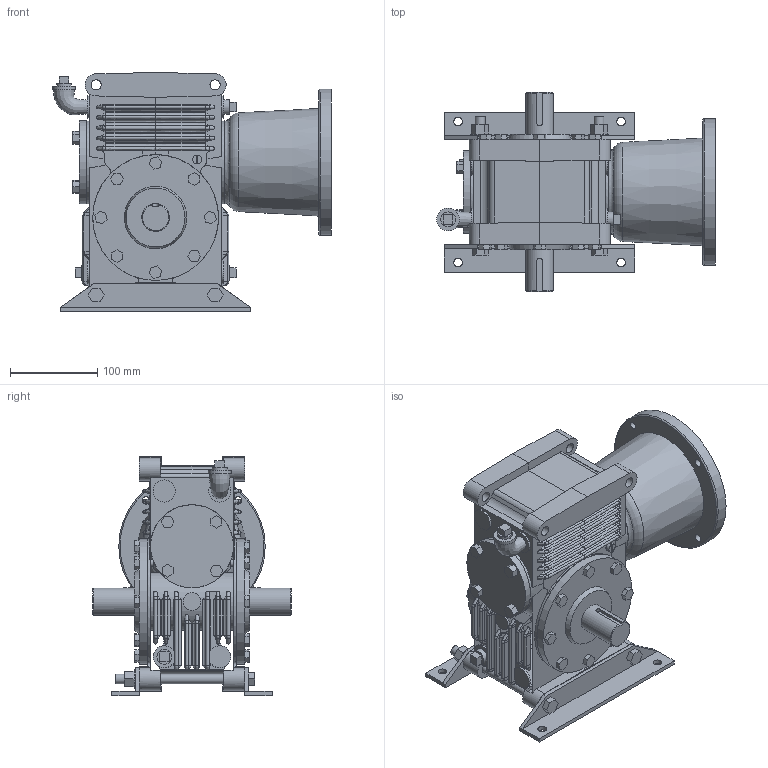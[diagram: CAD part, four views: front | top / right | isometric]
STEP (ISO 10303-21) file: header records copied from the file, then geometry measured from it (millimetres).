
FILE_DESCRIPTION(/* description */ ('Unknown'),/* implementation_level */ '2;1');
FILE_NAME(/* name */ 'HO-25-3--BNG010',/* time_stamp */ '2024-11-21T08:57:03-05:00',/* author */ ('Unknown'),/* organization */ ('Unknown'),/* preprocessor_version */ 'ST-DEVELOPER v19.4',/* originating_system */ 'Solid Edge',/* authorisation */ 'Unknown');
FILE_SCHEMA (('AUTOMOTIVE_DESIGN {1 0 10303 214 3 1 1}'));
Length unit declared in the file: millimetre
Products named in the file (5): HO-25-3--BNG010; 25-WO-CP; 25-OUTS; 25-MTR45-56C; 25-WCAP
Assembly tree (5 placements, depth 2):
  HO-25-3--BNG010
    25-WO-CP
    25-OUTS  x2
    25-MTR45-56C
    25-WCAP
Bounding box: 320.18 x 228.6 x 274.57 mm (x, y, z)
Volume: 4986639.1 mm3; surface area: 509658.7 mm2
Topology: 5 solids, 5 shells, 1157 faces, 2758 edges, 1688 vertices
Faces by surface type: plane 587, bspline 405, cylinder 151, cone 7, torus 7
Full cylindrical faces by diameter (mm): 0.254 x5, 1.27 x3, 2.54 x1, 7.938 x6, 8.731 x6, 9.922 x4, 10.287 x2, 11.113 x4, 11.633 x8, 11.906 x4, 17.043 x3, 17.069 x1, 19.037 x1, 20.574 x2, 21.793 x2, 22.225 x1, 25.4 x4, 26.162 x1, 31.737 x2, 44.45 x1, 60.325 x1, 66.675 x1, 67.945 x1, 95.25 x4, 114.338 x1, 144.463 x2, 168.275 x1
Entity records: 45227 total; most frequent: CARTESIAN_POINT 15454, ORIENTED_EDGE 4888, DIRECTION 3946, EDGE_CURVE 2444, VERTEX_POINT 1524, LINE 1420, VECTOR 1420, EDGE_LOOP 1274
